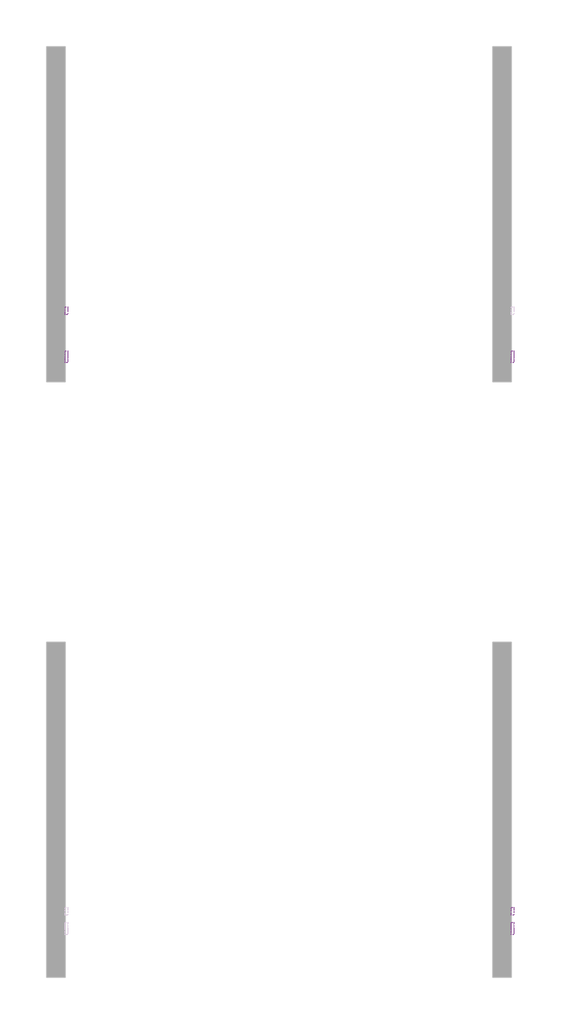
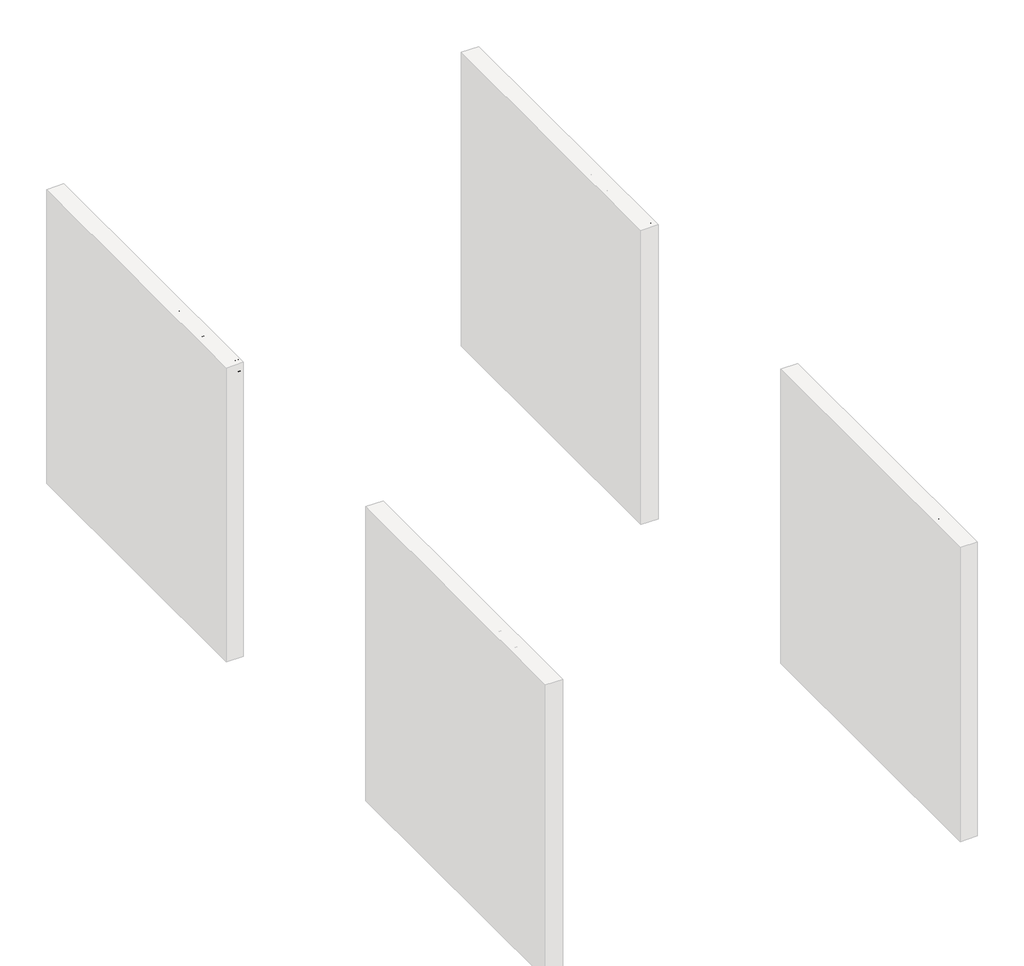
# One storey, part 7 of 9: 5 proxies.
"""IFC4 building model written with IfcOpenShell, lengths in millimetres."""

from ifc_helpers import new_model, si_unit, frame, origin, place, context, project, spatial, polyline, outline, extrude, element, save

model = new_model("IFC4")

# Units and contexts
model_context = context("Model", 3, world=origin())
ifc_project = project(units=[si_unit("LENGTHUNIT", "METRE", prefix="MILLI")], contexts=[model_context])

# Site, building, storey
site = spatial("IfcSite", under=ifc_project)
building = spatial("IfcBuilding", under=site)
storey = spatial("IfcBuildingStorey", under=building, Name="PORTOBELLO - SHOWROOM", Elevation=0.0)

# Proxies
placement = place(None, origin())
element("IfcBuildingElementProxy", 1, Name="10mm Arial", ObjectType="10mm Arial", at=placement, inside=storey, context=model_context, shape_type="SweptSolid", body=[
    extrude(outline(polyline([(8513.9937077, 2548.8308244), (8513.9937077, 2649.2871345), (8548.6481916, 2649.2871345), (8566.5763075, 2647.840132), (8581.3406382, 2640.6541704), (8593.2354894, 2623.4863439), (8597.1840895, 2599.5985397), (8594.5108137, 2579.3282418), (8587.6436831, 2564.6988011), (8578.4711587, 2555.5875904), (8566.4659429, 2550.547607), (8550.3159233, 2548.8308244), (8513.9937077, 2548.8308244)]), holes=[polyline([(8526.5507464, 2561.3878632), (8548.7708189, 2561.3878632), (8564.9331013, 2563.2027477), (8574.2527785, 2568.3285701), (8581.8924612, 2580.7997698), (8584.6270507, 2599.7947434), (8583.2873471, 2613.4799537), (8579.2682363, 2623.5844458), (8566.232951, 2634.7190075), (8548.4274624, 2636.7300958), (8526.5507464, 2636.7300958), (8526.5507464, 2561.3878632)])]), frame((-18784.5594677, 0.0, 0.0), z_axis=(1.0, 0.0, 0.0), x_axis=(0.0, 1.0, 0.0)), (0.0, 0.0, 1.0), 20.0),
    extrude(outline(polyline([(8664.5310201, 2570.8056422), (8676.8428042, 2569.2360124), (8672.4067605, 2559.9592547), (8665.3280977, 2553.0246791), (8655.7662316, 2548.7020657), (8643.8805774, 2547.2611945), (8629.1469035, 2549.7474637), (8617.8100067, 2557.2062711), (8610.5811255, 2569.1532389), (8608.1714984, 2585.1039891), (8610.605651, 2601.5912339), (8617.9081086, 2613.9214121), (8629.0917212, 2621.6101458), (8643.1693389, 2624.173057), (8656.8085639, 2621.6162771), (8667.707068, 2613.9459375), (8674.8531757, 2601.6402848), (8677.2352117, 2585.1775655), (8677.1616353, 2581.7930512), (8620.7285372, 2581.7930512), (8622.9021066, 2572.3936662), (8627.951287, 2565.483616), (8635.2384162, 2561.234579), (8644.1258321, 2559.8182333), (8656.4376162, 2562.4424582), (8664.5310201, 2570.8056422)]), holes=[polyline([(8620.7285372, 2594.3500899), (8664.6781729, 2594.3500899), (8659.6504523, 2605.7299063), (8652.3296006, 2610.1444902), (8643.120288, 2611.6160182), (8627.6569814, 2606.9193914), (8622.791742, 2601.4287526), (8620.7285372, 2594.3500899)])]), frame((-18784.5594677, 0.0, 0.0), z_axis=(1.0, 0.0, 0.0), x_axis=(0.0, 1.0, 0.0)), (0.0, 0.0, 1.0), 20.0),
    extrude(outline(polyline([(8689.7922504, 2548.8308244), (8689.7922504, 2622.6034271), (8702.3492892, 2622.6034271), (8702.3492892, 2612.3027313), (8711.9510093, 2621.2054756), (8725.059871, 2624.173057), (8736.917934, 2621.781824), (8745.0113379, 2615.5033046), (8748.775997, 2606.2694666), (8749.4381846, 2594.1293607), (8749.4381846, 2548.8308244), (8736.8811458, 2548.8308244), (8736.8811458, 2592.4371035), (8735.4341433, 2603.5471398), (8730.3205836, 2609.420989), (8721.6998821, 2611.6160182), (8708.0759856, 2606.6863995), (8703.7809633, 2599.5433574), (8702.3492892, 2587.9734687), (8702.3492892, 2548.8308244), (8689.7922504, 2548.8308244)])), frame((-18784.5594677, 0.0, 0.0), z_axis=(1.0, 0.0, 0.0), x_axis=(0.0, 1.0, 0.0)), (0.0, 0.0, 1.0), 20.0),
    extrude(outline(polyline([(-18764.5594677, 8779.2611516), (-18764.5594677, 8766.7041129), (-18784.5594677, 8766.7041129), (-18784.5594677, 8779.2611516), (-18764.5594677, 8779.2611516)])), frame((0.0, 0.0, 2636.7300958), z_axis=(0.0, 0.0, 1.0), x_axis=(1.0, 0.0, 0.0)), (0.0, 0.0, 1.0), 12.5570388),
    extrude(outline(polyline([(-18764.5594677, 8779.2611516), (-18764.5594677, 8766.7041129), (-18784.5594677, 8766.7041129), (-18784.5594677, 8779.2611516), (-18764.5594677, 8779.2611516)])), frame((0.0, 0.0, 2548.8308244), z_axis=(0.0, 0.0, 1.0), x_axis=(1.0, 0.0, 0.0)), (0.0, 0.0, 1.0), 73.7726028),
    extrude(outline(polyline([(8798.0967098, 2548.8308244), (8798.0967098, 2622.6034271), (8810.6537486, 2622.6034271), (8810.6537486, 2610.4633213), (8819.2867127, 2620.4083979), (8831.5739714, 2624.173057), (8844.1555356, 2620.3348215), (8851.0717171, 2609.5804045), (8860.8696409, 2620.5248939), (8873.2427387, 2624.173057), (8882.6819775, 2622.6555438), (8889.6625384, 2618.1030041), (8893.9759548, 2610.3928106), (8895.4137603, 2599.402336), (8895.4137603, 2548.8308244), (8882.8567215, 2548.8308244), (8882.8567215, 2594.0067334), (8881.6917618, 2604.4913703), (8877.4733816, 2609.6539809), (8870.2996827, 2611.6160182), (8857.9511104, 2606.5882976), (8854.2630934, 2600.0461295), (8853.0337544, 2590.4750662), (8853.0337544, 2548.8308244), (8840.4767156, 2548.8308244), (8840.4767156, 2595.404685), (8837.5704479, 2607.5693163), (8828.0423042, 2611.6160182), (8818.7471525, 2608.9182169), (8812.5667349, 2601.0210168), (8810.6537486, 2586.0359568), (8810.6537486, 2548.8308244), (8798.0967098, 2548.8308244)])), frame((-18784.5594677, 0.0, 0.0), z_axis=(1.0, 0.0, 0.0), x_axis=(0.0, 1.0, 0.0)), (0.0, 0.0, 1.0), 20.0),
])
element("IfcBuildingElementProxy", 2, Name="10mm Arial", ObjectType="10mm Arial", at=placement, inside=storey, context=model_context, shape_type="SweptSolid", body=[
    extrude(outline(polyline([(13309.2848181, 2583.362681), (13321.8418569, 2583.362681), (13325.8885588, 2570.7933795), (13335.7723218, 2562.8471284), (13350.8309581, 2559.8182333), (13363.9520826, 2562.1113644), (13372.4256312, 2568.4144093), (13375.2092717, 2576.8389069), (13373.124607, 2584.6747934), (13364.5897447, 2590.3769644), (13346.3060096, 2595.171693), (13326.6243228, 2601.3643733), (13315.9434822, 2610.708576), (13312.4240778, 2623.1920383), (13316.7773481, 2637.4045461), (13329.4938024, 2647.4354618), (13348.1086313, 2650.8567644), (13367.9742591, 2647.2760463), (13381.2180109, 2636.7546212), (13386.1966806, 2621.0337973), (13373.6396418, 2621.0337973), (13371.334248, 2628.5263273), (13366.5272566, 2633.9341926), (13348.5991407, 2638.2997256), (13330.6219738, 2633.9832435), (13324.9811166, 2623.5599203), (13328.9787676, 2614.8533798), (13349.4820575, 2607.8390964), (13371.70213, 2601.5360516), (13383.8544985, 2591.357983), (13387.7663104, 2577.157738), (13383.2658874, 2562.1358899), (13370.3164411, 2551.1730064), (13351.3214674, 2547.2611945), (13328.8929285, 2551.4795747), (13314.7049462, 2564.1837663), (13309.2848181, 2583.362681)])), frame((-18784.5594677, 0.0, 0.0), z_axis=(1.0, 0.0, 0.0), x_axis=(0.0, 1.0, 0.0)), (0.0, 0.0, 1.0), 20.0),
    extrude(outline(polyline([(13405.0322387, 2548.8308244), (13405.0322387, 2622.6034271), (13417.5892775, 2622.6034271), (13417.5892775, 2610.4633213), (13426.2222417, 2620.4083979), (13438.5095003, 2624.173057), (13451.0910645, 2620.3348215), (13458.007246, 2609.5804045), (13467.8051698, 2620.5248939), (13480.1782676, 2624.173057), (13489.6175065, 2622.6555438), (13496.5980673, 2618.1030041), (13500.9114837, 2610.3928106), (13502.3492892, 2599.402336), (13502.3492892, 2548.8308244), (13489.7922504, 2548.8308244), (13489.7922504, 2594.0067334), (13488.6272908, 2604.4913703), (13484.4089106, 2609.6539809), (13477.2352117, 2611.6160182), (13464.8866393, 2606.5882976), (13461.1986223, 2600.0461295), (13459.9692833, 2590.4750662), (13459.9692833, 2548.8308244), (13447.4122446, 2548.8308244), (13447.4122446, 2595.404685), (13444.5059768, 2607.5693163), (13434.9778331, 2611.6160182), (13425.6826814, 2608.9182169), (13419.5022639, 2601.0210168), (13417.5892775, 2586.0359568), (13417.5892775, 2548.8308244), (13405.0322387, 2548.8308244)])), frame((-18784.5594677, 0.0, 0.0), z_axis=(1.0, 0.0, 0.0), x_axis=(0.0, 1.0, 0.0)), (0.0, 0.0, 1.0), 20.0),
    extrude(outline(polyline([(13518.0455877, 2585.7171258), (13520.761783, 2603.5042202), (13528.9103692, 2616.0060767), (13538.9780732, 2622.1313119), (13551.0323399, 2624.173057), (13564.2239751, 2621.6867878), (13574.7607286, 2614.2279804), (13581.667713, 2602.3852458), (13583.9700412, 2586.7471954), (13579.8988138, 2564.4044955), (13568.0407508, 2551.7616176), (13551.0323399, 2547.2611945), (13537.6812891, 2549.7382666), (13527.1567984, 2557.1694829), (13520.3233903, 2569.2605378), (13518.0455877, 2585.7171258)]), holes=[polyline([(13530.6026264, 2585.7416512), (13532.0557603, 2574.3771633), (13536.4151619, 2566.2806937), (13542.9757242, 2561.4338484), (13551.0323399, 2559.8182333), (13559.0521674, 2561.4430455), (13565.6004669, 2566.3174819), (13569.9598685, 2574.5212504), (13571.4130024, 2586.1340587), (13569.9506715, 2597.1674529), (13565.5636787, 2605.1535578), (13559.0061821, 2610.0004031), (13551.0323399, 2611.6160182), (13542.9757242, 2610.0065345), (13536.4151619, 2605.1780833), (13532.0557603, 2597.1000078), (13530.6026264, 2585.7416512)])]), frame((-18784.5594677, 0.0, 0.0), z_axis=(1.0, 0.0, 0.0), x_axis=(0.0, 1.0, 0.0)), (0.0, 0.0, 1.0), 20.0),
    extrude(outline(polyline([(13598.0967098, 2548.8308244), (13598.0967098, 2649.2871345), (13610.6537486, 2649.2871345), (13610.6537486, 2595.3065831), (13638.8089839, 2622.6034271), (13656.1730141, 2622.6034271), (13627.6744222, 2594.9632266), (13657.742644, 2548.8308244), (13643.0764151, 2548.8308244), (13618.6735761, 2586.2321606), (13610.6537486, 2578.4575877), (13610.6537486, 2548.8308244), (13598.0967098, 2548.8308244)])), frame((-18784.5594677, 0.0, 0.0), z_axis=(1.0, 0.0, 0.0), x_axis=(0.0, 1.0, 0.0)), (0.0, 0.0, 1.0), 20.0),
    extrude(outline(polyline([(13720.380685, 2570.8056422), (13732.6924691, 2569.2360124), (13728.2564254, 2559.9592547), (13721.1777627, 2553.0246791), (13711.6158965, 2548.7020657), (13699.7302423, 2547.2611945), (13684.9965684, 2549.7474637), (13673.6596716, 2557.2062711), (13666.4307904, 2569.1532389), (13664.0211633, 2585.1039891), (13666.4553159, 2601.5912339), (13673.7577735, 2613.9214121), (13684.9413861, 2621.6101458), (13699.0190038, 2624.173057), (13712.6582288, 2621.6162771), (13723.5567329, 2613.9459375), (13730.7028406, 2601.6402848), (13733.0848766, 2585.1775655), (13733.0113002, 2581.7930512), (13676.5782021, 2581.7930512), (13678.7517716, 2572.3936662), (13683.8009519, 2565.483616), (13691.0880811, 2561.234579), (13699.975497, 2559.8182333), (13712.2872811, 2562.4424582), (13720.380685, 2570.8056422)]), holes=[polyline([(13676.5782021, 2594.3500899), (13720.5278378, 2594.3500899), (13715.5001172, 2605.7299063), (13708.1792655, 2610.1444902), (13698.9699529, 2611.6160182), (13683.5066463, 2606.9193914), (13678.641407, 2601.4287526), (13676.5782021, 2594.3500899)])]), frame((-18784.5594677, 0.0, 0.0), z_axis=(1.0, 0.0, 0.0), x_axis=(0.0, 1.0, 0.0)), (0.0, 0.0, 1.0), 20.0),
])
element("IfcBuildingElementProxy", 3, Name="10mm Arial", ObjectType="10mm Arial", at=placement, inside=storey, context=model_context, shape_type="SweptSolid", body=[
    extrude(outline(polyline([(13309.2848181, 2583.362681), (13321.8418569, 2583.362681), (13325.8885588, 2570.7933795), (13335.7723218, 2562.8471284), (13350.8309581, 2559.8182333), (13363.9520826, 2562.1113644), (13372.4256312, 2568.4144093), (13375.2092717, 2576.8389069), (13373.124607, 2584.6747934), (13364.5897447, 2590.3769644), (13346.3060096, 2595.171693), (13326.6243228, 2601.3643733), (13315.9434822, 2610.708576), (13312.4240778, 2623.1920383), (13316.7773481, 2637.4045461), (13329.4938024, 2647.4354618), (13348.1086313, 2650.8567644), (13367.9742591, 2647.2760463), (13381.2180109, 2636.7546212), (13386.1966806, 2621.0337973), (13373.6396418, 2621.0337973), (13371.334248, 2628.5263273), (13366.5272566, 2633.9341926), (13348.5991407, 2638.2997256), (13330.6219738, 2633.9832435), (13324.9811166, 2623.5599203), (13328.9787676, 2614.8533798), (13349.4820575, 2607.8390964), (13371.70213, 2601.5360516), (13383.8544985, 2591.357983), (13387.7663104, 2577.157738), (13383.2658874, 2562.1358899), (13370.3164411, 2551.1730064), (13351.3214674, 2547.2611945), (13328.8929285, 2551.4795747), (13314.7049462, 2564.1837663), (13309.2848181, 2583.362681)])), frame((-22384.5594677, 0.0, 0.0), z_axis=(1.0, 0.0, 0.0), x_axis=(0.0, 1.0, 0.0)), (0.0, 0.0, 1.0), 20.0),
    extrude(outline(polyline([(13405.0322387, 2548.8308244), (13405.0322387, 2622.6034271), (13417.5892775, 2622.6034271), (13417.5892775, 2610.4633213), (13426.2222417, 2620.4083979), (13438.5095003, 2624.173057), (13451.0910645, 2620.3348215), (13458.007246, 2609.5804045), (13467.8051698, 2620.5248939), (13480.1782676, 2624.173057), (13489.6175065, 2622.6555438), (13496.5980673, 2618.1030041), (13500.9114837, 2610.3928106), (13502.3492892, 2599.402336), (13502.3492892, 2548.8308244), (13489.7922504, 2548.8308244), (13489.7922504, 2594.0067334), (13488.6272908, 2604.4913703), (13484.4089106, 2609.6539809), (13477.2352117, 2611.6160182), (13464.8866393, 2606.5882976), (13461.1986223, 2600.0461295), (13459.9692833, 2590.4750662), (13459.9692833, 2548.8308244), (13447.4122446, 2548.8308244), (13447.4122446, 2595.404685), (13444.5059768, 2607.5693163), (13434.9778331, 2611.6160182), (13425.6826814, 2608.9182169), (13419.5022639, 2601.0210168), (13417.5892775, 2586.0359568), (13417.5892775, 2548.8308244), (13405.0322387, 2548.8308244)])), frame((-22384.5594677, 0.0, 0.0), z_axis=(1.0, 0.0, 0.0), x_axis=(0.0, 1.0, 0.0)), (0.0, 0.0, 1.0), 20.0),
    extrude(outline(polyline([(13518.0455877, 2585.7171258), (13520.761783, 2603.5042202), (13528.9103692, 2616.0060767), (13538.9780732, 2622.1313119), (13551.0323399, 2624.173057), (13564.2239751, 2621.6867878), (13574.7607286, 2614.2279804), (13581.667713, 2602.3852458), (13583.9700412, 2586.7471954), (13579.8988138, 2564.4044955), (13568.0407508, 2551.7616176), (13551.0323399, 2547.2611945), (13537.6812891, 2549.7382666), (13527.1567984, 2557.1694829), (13520.3233903, 2569.2605378), (13518.0455877, 2585.7171258)]), holes=[polyline([(13530.6026264, 2585.7416512), (13532.0557603, 2574.3771633), (13536.4151619, 2566.2806937), (13542.9757242, 2561.4338484), (13551.0323399, 2559.8182333), (13559.0521674, 2561.4430455), (13565.6004669, 2566.3174819), (13569.9598685, 2574.5212504), (13571.4130024, 2586.1340587), (13569.9506715, 2597.1674529), (13565.5636787, 2605.1535578), (13559.0061821, 2610.0004031), (13551.0323399, 2611.6160182), (13542.9757242, 2610.0065345), (13536.4151619, 2605.1780833), (13532.0557603, 2597.1000078), (13530.6026264, 2585.7416512)])]), frame((-22384.5594677, 0.0, 0.0), z_axis=(1.0, 0.0, 0.0), x_axis=(0.0, 1.0, 0.0)), (0.0, 0.0, 1.0), 20.0),
    extrude(outline(polyline([(13598.0967098, 2548.8308244), (13598.0967098, 2649.2871345), (13610.6537486, 2649.2871345), (13610.6537486, 2595.3065831), (13638.8089839, 2622.6034271), (13656.1730141, 2622.6034271), (13627.6744222, 2594.9632266), (13657.742644, 2548.8308244), (13643.0764151, 2548.8308244), (13618.6735761, 2586.2321606), (13610.6537486, 2578.4575877), (13610.6537486, 2548.8308244), (13598.0967098, 2548.8308244)])), frame((-22384.5594677, 0.0, 0.0), z_axis=(1.0, 0.0, 0.0), x_axis=(0.0, 1.0, 0.0)), (0.0, 0.0, 1.0), 20.0),
    extrude(outline(polyline([(13720.380685, 2570.8056422), (13732.6924691, 2569.2360124), (13728.2564254, 2559.9592547), (13721.1777627, 2553.0246791), (13711.6158965, 2548.7020657), (13699.7302423, 2547.2611945), (13684.9965684, 2549.7474637), (13673.6596716, 2557.2062711), (13666.4307904, 2569.1532389), (13664.0211633, 2585.1039891), (13666.4553159, 2601.5912339), (13673.7577735, 2613.9214121), (13684.9413861, 2621.6101458), (13699.0190038, 2624.173057), (13712.6582288, 2621.6162771), (13723.5567329, 2613.9459375), (13730.7028406, 2601.6402848), (13733.0848766, 2585.1775655), (13733.0113002, 2581.7930512), (13676.5782021, 2581.7930512), (13678.7517716, 2572.3936662), (13683.8009519, 2565.483616), (13691.0880811, 2561.234579), (13699.975497, 2559.8182333), (13712.2872811, 2562.4424582), (13720.380685, 2570.8056422)]), holes=[polyline([(13676.5782021, 2594.3500899), (13720.5278378, 2594.3500899), (13715.5001172, 2605.7299063), (13708.1792655, 2610.1444902), (13698.9699529, 2611.6160182), (13683.5066463, 2606.9193914), (13678.641407, 2601.4287526), (13676.5782021, 2594.3500899)])]), frame((-22384.5594677, 0.0, 0.0), z_axis=(1.0, 0.0, 0.0), x_axis=(0.0, 1.0, 0.0)), (0.0, 0.0, 1.0), 20.0),
])
element("IfcBuildingElementProxy", 4, Name="10mm Arial Narrow", ObjectType="10mm Arial Narrow", at=placement, inside=storey, context=model_context, shape_type="SweptSolid", body=[
    extrude(outline(polyline([(8953.5169571, 2548.8308244), (8953.5169571, 2649.5494281), (8984.8138418, 2649.5494281), (9001.1095433, 2647.6711074), (9012.5825295, 2638.1906642), (9016.8722079, 2621.1715554), (9015.0858995, 2609.0957299), (9009.7269743, 2599.4693361), (8999.9831855, 2593.1680777), (8985.0422862, 2591.0676582), (8963.2639188, 2591.0676582), (8963.2639188, 2548.8308244), (8953.5169571, 2548.8308244)]), holes=[polyline([(8963.2639188, 2602.4391135), (8986.2352737, 2602.4391135), (9002.0994691, 2606.9699277), (9007.1252462, 2620.6385184), (9004.6504318, 2630.8042949), (8998.6728029, 2636.6042447), (8986.0068293, 2638.1779729), (8963.2639188, 2638.1779729), (8963.2639188, 2602.4391135)])]), frame((-18784.5594677, 0.0, 0.0), z_axis=(1.0, 0.0, 0.0), x_axis=(0.0, 1.0, 0.0)), (0.0, 0.0, 1.0), 20.0),
    extrude(outline(polyline([(9024.9946759, 2585.3819306), (9026.9491448, 2601.9727061), (9032.8125514, 2613.9247909), (9041.6711181, 2621.1493455), (9052.6110673, 2623.5575304), (9063.4241029, 2621.1493455), (9072.3080523, 2613.9247909), (9078.2476071, 2602.1630765), (9080.2274586, 2586.143412), (9078.2825083, 2568.9815254), (9072.4476572, 2556.8390702), (9063.598609, 2549.6145156), (9052.6110673, 2547.2063308), (9041.7504391, 2549.6208613), (9032.8760082, 2556.8644529), (9026.965009, 2568.8228834), (9024.9946759, 2585.3819306)]), holes=[polyline([(9034.7416376, 2585.4073133), (9036.0456744, 2572.8555619), (9039.957785, 2563.9843038), (9045.7989818, 2558.7110453), (9052.8902771, 2556.9532924), (9059.6103503, 2558.7269095), (9065.3024236, 2564.0477606), (9069.1859786, 2572.9348829), (9070.480497, 2585.4073133), (9069.1764601, 2597.9209906), (9065.2643495, 2606.7795573), (9059.4231528, 2612.0528159), (9052.3318574, 2613.8105687), (9045.5641917, 2612.0432974), (9039.8816369, 2606.7414833), (9036.0266374, 2597.873398), (9034.7416376, 2585.4073133)])]), frame((-18784.5594677, 0.0, 0.0), z_axis=(1.0, 0.0, 0.0), x_axis=(0.0, 1.0, 0.0)), (0.0, 0.0, 1.0), 20.0),
    extrude(outline(polyline([(9151.7051774, 2556.9532924), (9153.329671, 2547.2063308), (9145.9686844, 2547.2063308), (9137.6939201, 2549.3257873), (9133.3788589, 2555.1257371), (9132.2112541, 2569.7715623), (9132.2112541, 2612.1860751), (9124.0887861, 2612.1860751), (9124.0887861, 2615.4350623), (9122.4642925, 2610.5615815), (9114.9002441, 2612.1860751), (9108.8210844, 2609.8635569), (9104.9502207, 2603.3782738), (9102.9703692, 2587.9709673), (9102.9703692, 2548.8308244), (9093.2234075, 2548.8308244), (9093.2234075, 2621.9330368), (9102.9703692, 2621.9330368), (9102.9703692, 2612.2368406), (9109.2145165, 2621.3238517), (9115.6109601, 2623.5575304), (9124.0887861, 2621.9330368), (9132.2112541, 2621.9330368), (9132.2112541, 2638.1779729), (9141.9582158, 2646.3004409), (9141.9582158, 2621.9330368), (9151.7051774, 2621.9330368), (9151.7051774, 2612.1860751), (9141.9582158, 2612.1860751), (9141.9582158, 2567.5378836), (9142.821228, 2559.5423291), (9147.4408817, 2556.9532924), (9151.7051774, 2556.9532924)])), frame((-18784.5594677, 0.0, 0.0), z_axis=(1.0, 0.0, 0.0), x_axis=(0.0, 1.0, 0.0)), (0.0, 0.0, 1.0), 20.0),
    extrude(outline(polyline([(9158.2031519, 2585.3819306), (9160.1576207, 2601.9727061), (9166.0210274, 2613.9247909), (9174.8795941, 2621.1493455), (9185.8195432, 2623.5575304), (9196.6325788, 2621.1493455), (9205.5165282, 2613.9247909), (9211.456083, 2602.1630765), (9213.4359346, 2586.143412), (9211.4909842, 2568.9815254), (9205.6561331, 2556.8390702), (9196.8070849, 2549.6145156), (9185.8195432, 2547.2063308), (9174.958915, 2549.6208613), (9166.0844841, 2556.8644529), (9160.1734849, 2568.8228834), (9158.2031519, 2585.3819306)]), holes=[polyline([(9167.9501135, 2585.4073133), (9169.2541504, 2572.8555619), (9173.166261, 2563.9843038), (9179.0074577, 2558.7110453), (9186.0987531, 2556.9532924), (9192.8188262, 2558.7269095), (9198.5108995, 2564.0477606), (9202.3944546, 2572.9348829), (9203.6889729, 2585.4073133), (9202.3849361, 2597.9209906), (9198.4728255, 2606.7795573), (9192.6316287, 2612.0528159), (9185.5403334, 2613.8105687), (9178.7726676, 2612.0432974), (9173.0901128, 2606.7414833), (9169.2351133, 2597.873398), (9167.9501135, 2585.4073133)])]), frame((-18784.5594677, 0.0, 0.0), z_axis=(1.0, 0.0, 0.0), x_axis=(0.0, 1.0, 0.0)), (0.0, 0.0, 1.0), 20.0),
    extrude(outline(polyline([(9236.1788451, 2548.8308244), (9226.4318834, 2548.8308244), (9226.4318834, 2649.5494281), (9236.1788451, 2649.5494281), (9236.1788451, 2614.140544), (9243.5779058, 2621.2223208), (9252.7791392, 2623.5575304), (9265.6608658, 2619.3566915), (9274.9382473, 2606.6272611), (9278.4156789, 2585.9403503), (9276.4834199, 2569.4860068), (9270.6866429, 2557.2832677), (9262.3135206, 2549.725565), (9252.6522256, 2547.2063308), (9243.3113873, 2549.8207502), (9236.1788451, 2557.5878602), (9236.1788451, 2548.8308244)]), holes=[polyline([(9236.1788451, 2585.9403503), (9238.2602275, 2568.692797), (9244.1490169, 2559.9611439), (9252.6014602, 2556.9532924), (9258.5441878, 2558.7427737), (9263.7825451, 2564.1112174), (9268.6687173, 2585.5342269), (9263.9602241, 2606.9699277), (9258.7155211, 2612.1004085), (9252.3983985, 2613.8105687), (9246.4207696, 2612.0210875), (9241.1284741, 2606.6526438), (9236.1788451, 2585.9403503)])]), frame((-18784.5594677, 0.0, 0.0), z_axis=(1.0, 0.0, 0.0), x_axis=(0.0, 1.0, 0.0)), (0.0, 0.0, 1.0), 20.0),
    extrude(outline(polyline([(9330.3994744, 2571.5737349), (9340.1464361, 2569.9492413), (9336.4469057, 2560.0626747), (9330.6279188, 2552.9428238), (9322.9242655, 2548.640454), (9313.5707359, 2547.2063308), (9301.9771819, 2549.6208613), (9292.8330597, 2556.8644529), (9286.8935049, 2568.6705872), (9284.9136534, 2584.7727455), (9286.9030235, 2601.4396692), (9292.8711338, 2613.6201984), (9301.8851696, 2621.0731974), (9313.0123163, 2623.5575304), (9323.6952654, 2621.158864), (9332.4427828, 2613.962865), (9338.2776338, 2602.2233604), (9340.2225842, 2586.1941774), (9340.1464361, 2582.9451902), (9294.660615, 2582.9451902), (9300.6636266, 2563.5020323), (9306.5936628, 2558.5904774), (9313.6976495, 2556.9532924), (9323.8761173, 2560.608403), (9330.3994744, 2571.5737349)]), holes=[polyline([(9295.3205655, 2592.6921518), (9330.3994744, 2592.6921518), (9326.1351787, 2606.9572363), (9320.3098461, 2612.0972356), (9313.0884644, 2613.8105687), (9300.8793796, 2608.0994584), (9295.3205655, 2592.6921518)])]), frame((-18784.5594677, 0.0, 0.0), z_axis=(1.0, 0.0, 0.0), x_axis=(0.0, 1.0, 0.0)), (0.0, 0.0, 1.0), 20.0),
    extrude(outline(polyline([(-18764.5594677, 9362.8893466), (-18764.5594677, 9353.1423849), (-18784.5594677, 9353.1423849), (-18784.5594677, 9362.8893466), (-18764.5594677, 9362.8893466)])), frame((0.0, 0.0, 2548.8308244), z_axis=(0.0, 0.0, 1.0), x_axis=(1.0, 0.0, 0.0)), (0.0, 0.0, 1.0), 100.7186038),
    extrude(outline(polyline([(-18764.5594677, 9388.8812443), (-18764.5594677, 9379.1342827), (-18784.5594677, 9379.1342827), (-18784.5594677, 9388.8812443), (-18764.5594677, 9388.8812443)])), frame((0.0, 0.0, 2548.8308244), z_axis=(0.0, 0.0, 1.0), x_axis=(1.0, 0.0, 0.0)), (0.0, 0.0, 1.0), 100.7186038),
    extrude(outline(polyline([(9400.2526996, 2585.3819306), (9402.2071685, 2601.9727061), (9408.0705751, 2613.9247909), (9416.9291418, 2621.1493455), (9427.8690909, 2623.5575304), (9438.6821265, 2621.1493455), (9447.566076, 2613.9247909), (9453.5056307, 2602.1630765), (9455.4854823, 2586.143412), (9453.5405319, 2568.9815254), (9447.7056809, 2556.8390702), (9438.8566327, 2549.6145156), (9427.8690909, 2547.2063308), (9417.0084628, 2549.6208613), (9408.1340319, 2556.8644529), (9402.2230327, 2568.8228834), (9400.2526996, 2585.3819306)]), holes=[polyline([(9409.9996612, 2585.4073133), (9411.3036981, 2572.8555619), (9415.2158087, 2563.9843038), (9421.0570054, 2558.7110453), (9428.1483008, 2556.9532924), (9434.868374, 2558.7269095), (9440.5604473, 2564.0477606), (9444.4440023, 2572.9348829), (9445.7385206, 2585.4073133), (9444.4344838, 2597.9209906), (9440.5223732, 2606.7795573), (9434.6811764, 2612.0528159), (9427.5898811, 2613.8105687), (9420.8222153, 2612.0432974), (9415.1396606, 2606.7414833), (9411.2846611, 2597.873398), (9409.9996612, 2585.4073133)])]), frame((-18784.5594677, 0.0, 0.0), z_axis=(1.0, 0.0, 0.0), x_axis=(0.0, 1.0, 0.0)), (0.0, 0.0, 1.0), 20.0),
])
element("IfcBuildingElementProxy", 5, Name="10mm Arial Narrow", ObjectType="10mm Arial Narrow", at=placement, inside=storey, context=model_context, shape_type="SweptSolid", body=[
    extrude(outline(polyline([(13793.5169571, 2548.8308244), (13793.5169571, 2649.5494281), (13824.8138418, 2649.5494281), (13841.1095433, 2647.6711074), (13852.5825294, 2638.1906642), (13856.8722079, 2621.1715554), (13855.0858995, 2609.0957299), (13849.7269743, 2599.4693361), (13839.9831855, 2593.1680777), (13825.0422862, 2591.0676582), (13803.2639188, 2591.0676582), (13803.2639188, 2548.8308244), (13793.5169571, 2548.8308244)]), holes=[polyline([(13803.2639188, 2602.4391135), (13826.2352737, 2602.4391135), (13842.0994691, 2606.9699277), (13847.1252462, 2620.6385184), (13844.6504318, 2630.8042949), (13838.6728029, 2636.6042447), (13826.0068293, 2638.1779729), (13803.2639188, 2638.1779729), (13803.2639188, 2602.4391135)])]), frame((-22384.5594677, 0.0, 0.0), z_axis=(1.0, 0.0, 0.0), x_axis=(0.0, 1.0, 0.0)), (0.0, 0.0, 1.0), 20.0),
    extrude(outline(polyline([(13864.9946759, 2585.3819306), (13866.9491448, 2601.9727061), (13872.8125514, 2613.9247909), (13881.6711181, 2621.1493455), (13892.6110673, 2623.5575304), (13903.4241029, 2621.1493455), (13912.3080523, 2613.9247909), (13918.247607, 2602.1630765), (13920.2274586, 2586.143412), (13918.2825083, 2568.9815254), (13912.4476572, 2556.8390702), (13903.598609, 2549.6145156), (13892.6110673, 2547.2063308), (13881.7504391, 2549.6208613), (13872.8760082, 2556.8644529), (13866.965009, 2568.8228834), (13864.9946759, 2585.3819306)]), holes=[polyline([(13874.7416376, 2585.4073133), (13876.0456744, 2572.8555619), (13879.957785, 2563.9843038), (13885.7989818, 2558.7110453), (13892.8902771, 2556.9532924), (13899.6103503, 2558.7269095), (13905.3024236, 2564.0477606), (13909.1859786, 2572.9348829), (13910.480497, 2585.4073133), (13909.1764601, 2597.9209906), (13905.2643495, 2606.7795573), (13899.4231528, 2612.0528159), (13892.3318574, 2613.8105687), (13885.5641917, 2612.0432974), (13879.8816369, 2606.7414833), (13876.0266374, 2597.873398), (13874.7416376, 2585.4073133)])]), frame((-22384.5594677, 0.0, 0.0), z_axis=(1.0, 0.0, 0.0), x_axis=(0.0, 1.0, 0.0)), (0.0, 0.0, 1.0), 20.0),
    extrude(outline(polyline([(13991.7051774, 2556.9532924), (13993.329671, 2547.2063308), (13985.9686844, 2547.2063308), (13977.69392, 2549.3257873), (13973.3788589, 2555.1257371), (13972.2112541, 2569.7715623), (13972.2112541, 2612.1860751), (13964.0887861, 2612.1860751), (13964.0887861, 2615.4350623), (13962.4642925, 2610.5615815), (13954.9002441, 2612.1860751), (13948.8210844, 2609.8635569), (13944.9502207, 2603.3782738), (13942.9703692, 2587.9709673), (13942.9703692, 2548.8308244), (13933.2234075, 2548.8308244), (13933.2234075, 2621.9330368), (13942.9703692, 2621.9330368), (13942.9703692, 2612.2368406), (13949.2145165, 2621.3238517), (13955.6109601, 2623.5575304), (13964.0887861, 2621.9330368), (13972.2112541, 2621.9330368), (13972.2112541, 2638.1779729), (13981.9582158, 2646.3004409), (13981.9582158, 2621.9330368), (13991.7051774, 2621.9330368), (13991.7051774, 2612.1860751), (13981.9582158, 2612.1860751), (13981.9582158, 2567.5378836), (13982.821228, 2559.5423291), (13987.4408817, 2556.9532924), (13991.7051774, 2556.9532924)])), frame((-22384.5594677, 0.0, 0.0), z_axis=(1.0, 0.0, 0.0), x_axis=(0.0, 1.0, 0.0)), (0.0, 0.0, 1.0), 20.0),
    extrude(outline(polyline([(13998.2031519, 2585.3819306), (14000.1576207, 2601.9727061), (14006.0210274, 2613.9247909), (14014.8795941, 2621.1493455), (14025.8195432, 2623.5575304), (14036.6325788, 2621.1493455), (14045.5165282, 2613.9247909), (14051.456083, 2602.1630765), (14053.4359346, 2586.143412), (14051.4909842, 2568.9815254), (14045.6561331, 2556.8390702), (14036.8070849, 2549.6145156), (14025.8195432, 2547.2063308), (14014.958915, 2549.6208613), (14006.0844841, 2556.8644529), (14000.1734849, 2568.8228834), (13998.2031519, 2585.3819306)]), holes=[polyline([(14007.9501135, 2585.4073133), (14009.2541504, 2572.8555619), (14013.166261, 2563.9843038), (14019.0074577, 2558.7110453), (14026.0987531, 2556.9532924), (14032.8188262, 2558.7269095), (14038.5108995, 2564.0477606), (14042.3944546, 2572.9348829), (14043.6889729, 2585.4073133), (14042.384936, 2597.9209906), (14038.4728255, 2606.7795573), (14032.6316287, 2612.0528159), (14025.5403334, 2613.8105687), (14018.7726676, 2612.0432974), (14013.0901128, 2606.7414833), (14009.2351133, 2597.873398), (14007.9501135, 2585.4073133)])]), frame((-22384.5594677, 0.0, 0.0), z_axis=(1.0, 0.0, 0.0), x_axis=(0.0, 1.0, 0.0)), (0.0, 0.0, 1.0), 20.0),
    extrude(outline(polyline([(14076.1788451, 2548.8308244), (14066.4318834, 2548.8308244), (14066.4318834, 2649.5494281), (14076.1788451, 2649.5494281), (14076.1788451, 2614.140544), (14083.5779058, 2621.2223208), (14092.7791392, 2623.5575304), (14105.6608658, 2619.3566915), (14114.9382473, 2606.6272611), (14118.4156789, 2585.9403503), (14116.4834199, 2569.4860068), (14110.6866429, 2557.2832677), (14102.3135206, 2549.725565), (14092.6522256, 2547.2063308), (14083.3113873, 2549.8207502), (14076.1788451, 2557.5878602), (14076.1788451, 2548.8308244)]), holes=[polyline([(14076.1788451, 2585.9403503), (14078.2602275, 2568.692797), (14084.1490169, 2559.9611439), (14092.6014602, 2556.9532924), (14098.5441878, 2558.7427737), (14103.7825451, 2564.1112174), (14108.6687173, 2585.5342269), (14103.9602241, 2606.9699277), (14098.7155211, 2612.1004085), (14092.3983985, 2613.8105687), (14086.4207696, 2612.0210875), (14081.1284741, 2606.6526438), (14076.1788451, 2585.9403503)])]), frame((-22384.5594677, 0.0, 0.0), z_axis=(1.0, 0.0, 0.0), x_axis=(0.0, 1.0, 0.0)), (0.0, 0.0, 1.0), 20.0),
    extrude(outline(polyline([(14170.3994744, 2571.5737349), (14180.1464361, 2569.9492413), (14176.4469057, 2560.0626747), (14170.6279188, 2552.9428238), (14162.9242655, 2548.640454), (14153.5707359, 2547.2063308), (14141.9771819, 2549.6208613), (14132.8330597, 2556.8644529), (14126.8935049, 2568.6705872), (14124.9136534, 2584.7727455), (14126.9030235, 2601.4396692), (14132.8711338, 2613.6201984), (14141.8851696, 2621.0731974), (14153.0123162, 2623.5575304), (14163.6952654, 2621.158864), (14172.4427828, 2613.962865), (14178.2776338, 2602.2233604), (14180.2225842, 2586.1941774), (14180.1464361, 2582.9451902), (14134.660615, 2582.9451902), (14140.6636266, 2563.5020323), (14146.5936628, 2558.5904774), (14153.6976495, 2556.9532924), (14163.8761173, 2560.608403), (14170.3994744, 2571.5737349)]), holes=[polyline([(14135.3205655, 2592.6921518), (14170.3994744, 2592.6921518), (14166.1351787, 2606.9572363), (14160.3098461, 2612.0972356), (14153.0884644, 2613.8105687), (14140.8793796, 2608.0994584), (14135.3205655, 2592.6921518)])]), frame((-22384.5594677, 0.0, 0.0), z_axis=(1.0, 0.0, 0.0), x_axis=(0.0, 1.0, 0.0)), (0.0, 0.0, 1.0), 20.0),
    extrude(outline(polyline([(-22364.5594677, 14202.8893466), (-22364.5594677, 14193.1423849), (-22384.5594677, 14193.1423849), (-22384.5594677, 14202.8893466), (-22364.5594677, 14202.8893466)])), frame((0.0, 0.0, 2548.8308244), z_axis=(0.0, 0.0, 1.0), x_axis=(1.0, 0.0, 0.0)), (0.0, 0.0, 1.0), 100.7186038),
    extrude(outline(polyline([(-22364.5594677, 14228.8812443), (-22364.5594677, 14219.1342827), (-22384.5594677, 14219.1342827), (-22384.5594677, 14228.8812443), (-22364.5594677, 14228.8812443)])), frame((0.0, 0.0, 2548.8308244), z_axis=(0.0, 0.0, 1.0), x_axis=(1.0, 0.0, 0.0)), (0.0, 0.0, 1.0), 100.7186038),
    extrude(outline(polyline([(14240.2526996, 2585.3819306), (14242.2071685, 2601.9727061), (14248.0705751, 2613.9247909), (14256.9291418, 2621.1493455), (14267.8690909, 2623.5575304), (14278.6821265, 2621.1493455), (14287.566076, 2613.9247909), (14293.5056307, 2602.1630765), (14295.4854823, 2586.143412), (14293.5405319, 2568.9815254), (14287.7056809, 2556.8390702), (14278.8566327, 2549.6145156), (14267.8690909, 2547.2063308), (14257.0084628, 2549.6208613), (14248.1340319, 2556.8644529), (14242.2230327, 2568.8228834), (14240.2526996, 2585.3819306)]), holes=[polyline([(14249.9996612, 2585.4073133), (14251.3036981, 2572.8555619), (14255.2158087, 2563.9843038), (14261.0570054, 2558.7110453), (14268.1483008, 2556.9532924), (14274.868374, 2558.7269095), (14280.5604473, 2564.0477606), (14284.4440023, 2572.9348829), (14285.7385206, 2585.4073133), (14284.4344838, 2597.9209906), (14280.5223732, 2606.7795573), (14274.6811764, 2612.0528159), (14267.5898811, 2613.8105687), (14260.8222153, 2612.0432974), (14255.1396606, 2606.7414833), (14251.2846611, 2597.873398), (14249.9996612, 2585.4073133)])]), frame((-22384.5594677, 0.0, 0.0), z_axis=(1.0, 0.0, 0.0), x_axis=(0.0, 1.0, 0.0)), (0.0, 0.0, 1.0), 20.0),
])

save(model, "model.ifc")
